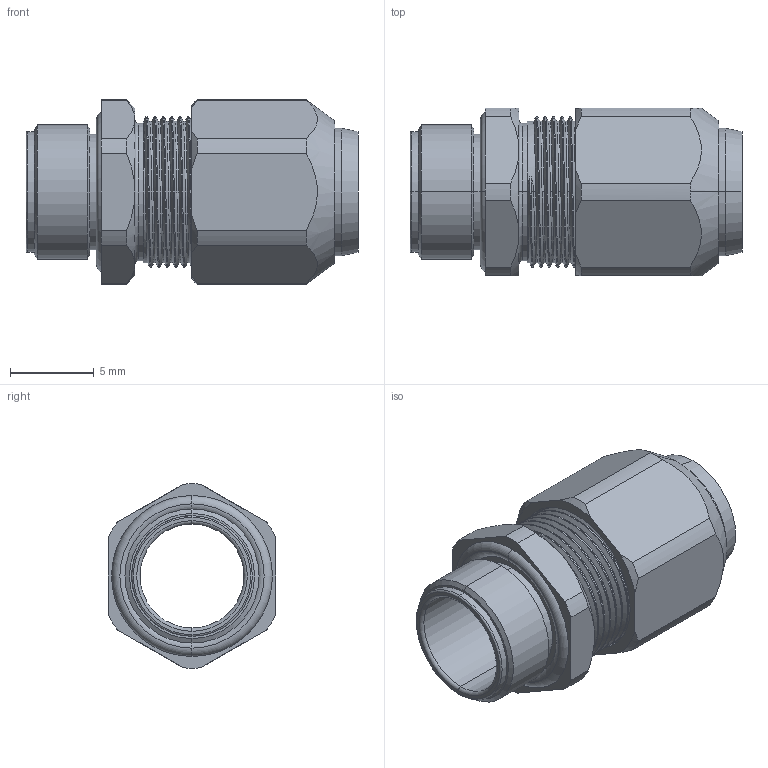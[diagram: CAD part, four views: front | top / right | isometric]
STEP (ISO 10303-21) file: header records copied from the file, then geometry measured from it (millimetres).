
FILE_DESCRIPTION(('Creo Elements/Direct Modeling STEP Export'),'2;1');
FILE_NAME('OA-WS08M-45／60.stp','2012-09-07T14:43:17',(''),(''),'Creo Elements/Direct Modeling STEP processor for AP214 (Solid Model)','Creo Elements/Direct Modeling 18.0B 02-Dec-2011 (C) Parametric Technology GmbH','');
FILE_SCHEMA(('AUTOMOTIVE_DESIGN { 1 0 10303 214 1 1 1 1 }'));
Length unit declared in the file: millimetre
Products named in the file (2): OA-WS08M-45／60
Assembly tree (1 placements, depth 2):
  OA-WS08M-45／60
    OA-WS08M-45／60
Bounding box: 19.8 x 10 x 11 mm (x, y, z)
Volume: 740.7 mm3; surface area: 1324.4 mm2
Topology: 1 solids, 1 shells, 152 faces, 363 edges, 230 vertices
Faces by surface type: cylinder 73, plane 31, cone 23, torus 22, bspline 3
Entity records: 5497 total; most frequent: CARTESIAN_POINT 2398, ORIENTED_EDGE 726, DIRECTION 543, EDGE_CURVE 363, AXIS2_PLACEMENT_3D 230, VERTEX_POINT 230, EDGE_LOOP 171, FACE_OUTER_BOUND 152
